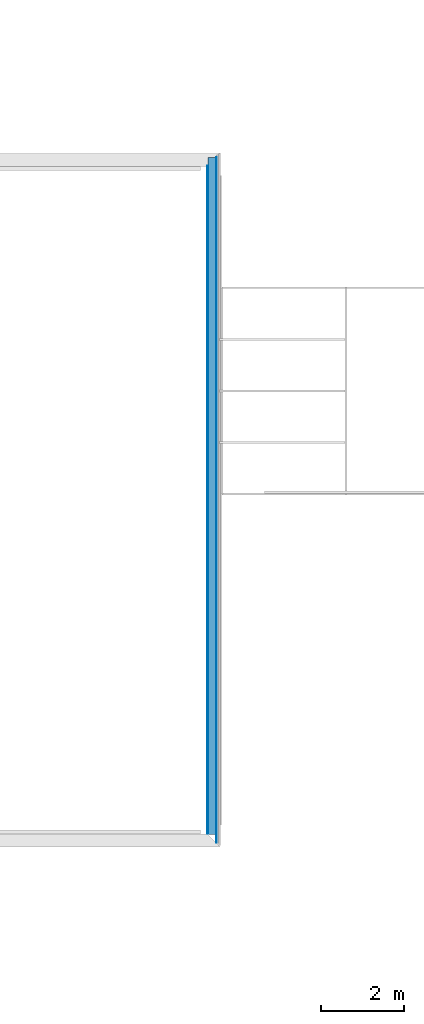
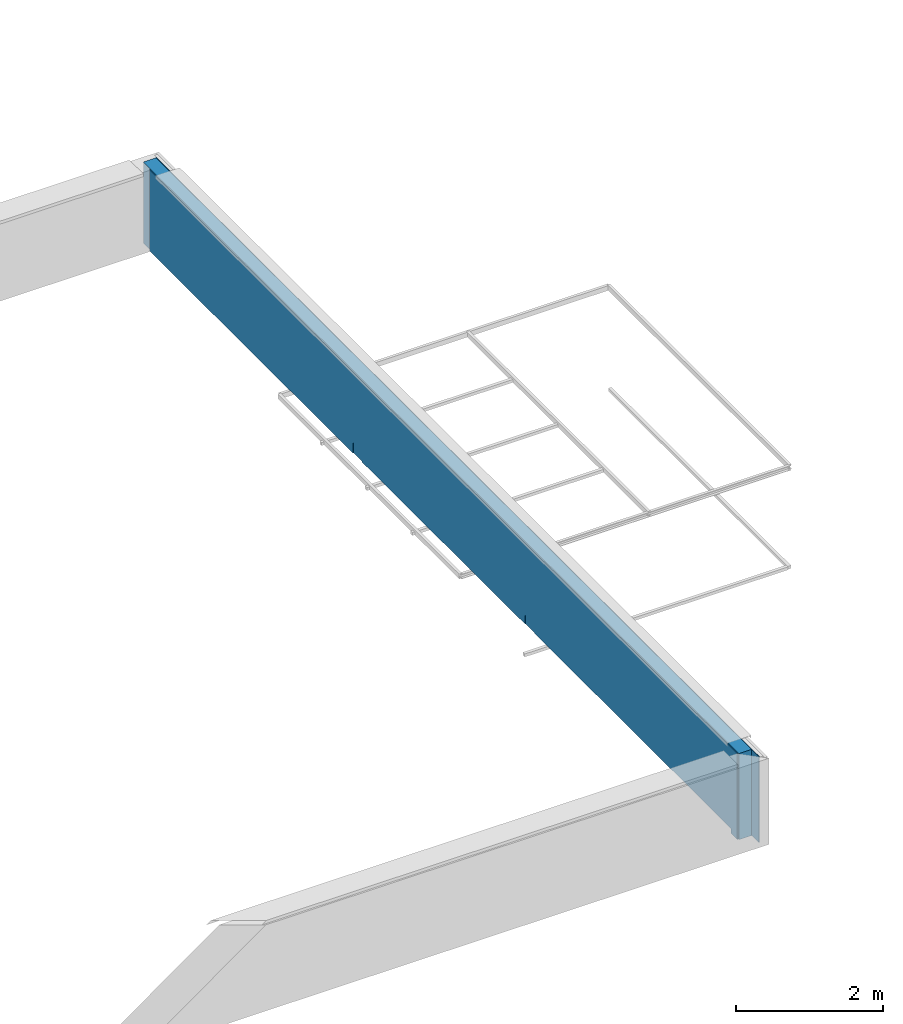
# One storey, part 6 of 8: 3 building element parts, 1 element without a shape of its own.
"""IFC2X3 building model written with IfcOpenShell, lengths in metres."""

from ifc_helpers import new_model, entity, si_unit, converted_unit, derived_unit, money_unit, direction, frame, origin_with_axes, place, context, subcontext, project, spatial, polyline, outline, extrude, boolean, faceted_brep, material, type_object, element, aggregate, save


model = new_model("IFC2X3")

# Units and contexts
model_context = context("Model", 3, precision=1e-05, world=origin_with_axes(), true_north=direction((0.0, 1.0)))
body_context = subcontext(model_context, "Body", "Model", "MODEL_VIEW")
ifc_project = project(units=[si_unit("LENGTHUNIT", "METRE"), si_unit("AREAUNIT", "SQUARE_METRE"), si_unit("VOLUMEUNIT", "CUBIC_METRE"), converted_unit("PLANEANGLEUNIT", "DEGREE", entity("IfcPlaneAngleMeasure", 0.0174532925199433), si_unit("PLANEANGLEUNIT", "RADIAN"), dimensions=[0, 0, 0, 0, 0, 0, 0]), money_unit("EUR"), converted_unit("TIMEUNIT", "Year", entity("IfcTimeMeasure", 31557600.0), si_unit("TIMEUNIT", "SECOND"), dimensions=[0, 0, 1, 0, 0, 0, 0]), si_unit("MASSUNIT", "GRAM", prefix="KILO"), si_unit("THERMODYNAMICTEMPERATUREUNIT", "DEGREE_CELSIUS"), si_unit("LUMINOUSINTENSITYUNIT", "LUMEN"), si_unit("ENERGYUNIT", "JOULE", prefix="MEGA"), derived_unit("THERMALCONDUCTANCEUNIT", [(si_unit("POWERUNIT", "WATT"), 1), (si_unit("LENGTHUNIT", "METRE"), -1), (si_unit("THERMODYNAMICTEMPERATUREUNIT", "KELVIN"), -1)]), derived_unit("SPECIFICHEATCAPACITYUNIT", [(si_unit("ENERGYUNIT", "JOULE"), 1), (si_unit("MASSUNIT", "GRAM", prefix="KILO"), -1), (si_unit("THERMODYNAMICTEMPERATUREUNIT", "KELVIN"), -1)]), derived_unit("MASSDENSITYUNIT", [(si_unit("MASSUNIT", "GRAM", prefix="KILO"), 1), (si_unit("VOLUMEUNIT", "CUBIC_METRE"), -1)])], contexts=[model_context])

# Site, building, storey
site_placement = place(None, origin_with_axes())
site = spatial("IfcSite", under=ifc_project, at=site_placement, Name="Site", CompositionType="ELEMENT")
building_placement = place(site_placement, origin_with_axes())
building = spatial("IfcBuilding", under=site, at=building_placement, Name="Bâtiment", CompositionType="ELEMENT")
storey_placement = place(building_placement, frame((0.0, 0.0, 7.12), z_axis=(0.0, 0.0, 1.0), x_axis=(1.0, 0.0, 0.0)))
storey = spatial("IfcBuildingStorey", under=building, at=storey_placement, Name="Combles", CompositionType="ELEMENT", Elevation=7.12)

# Wall, building element parts
wall_type = type_object("IfcWallType", Name="*MACONNERIE BARDAGE METAL Acrotère 318", PredefinedType="NOTDEFINED")
wall_placement = place(storey_placement, frame((54.20199999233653, -27.06756215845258, -0.334784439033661), z_axis=(0.0, 0.0, 1.0), x_axis=(0.0, 1.0, 0.0)))
wall = element("IfcWall", 1, at=wall_placement, inside=storey, type_object=wall_type, Name="Mur maçonné + ITI + véture métallique")
ifc_material_1 = material(Name="*GENERIQUE - ENDUIT EXT")
building_element_part_1_placement = place(wall_placement, origin_with_axes())
solid_1 = boolean("DIFFERENCE", boolean("DIFFERENCE", boolean("DIFFERENCE", boolean("DIFFERENCE", boolean("DIFFERENCE", boolean("DIFFERENCE", boolean("DIFFERENCE", boolean("DIFFERENCE", extrude(outline(polyline([(-0.3679999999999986, -0.06799999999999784), (16.28800000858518, -0.06799999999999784), (16.28800000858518, -0.04999999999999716), (-0.3679999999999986, -0.04999999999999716), (-0.3679999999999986, -0.06799999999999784)])), origin_with_axes(), (0.0, 0.0, 1.0), 1.434784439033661), faceted_brep([(-0.05000000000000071, -0.06799999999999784, 0.0), (-0.04999999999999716, -0.06799999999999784, 1.434784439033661), (-0.3679999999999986, -0.06799999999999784, 1.434784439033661), (-0.3679999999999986, -0.06799999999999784, 0.0), (-0.05000000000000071, -0.04999999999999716, 1.434784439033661), (-0.05000000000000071, -0.04999999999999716, 0.0), (-0.3679999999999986, -0.04999999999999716, 1.434784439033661), (-0.3679999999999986, -0.04999999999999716, 0.0)], [[[0, 1, 2, 3]], [[4, 1, 0, 5]], [[1, 4, 6, 2]], [[6, 7, 3, 2]], [[5, 0, 3, 7]], [[4, 5, 7, 6]]])), faceted_brep([(15.98800000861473, -0.04999999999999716, 1.434784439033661), (15.98800000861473, -0.06799999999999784, 1.434784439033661), (16.28800000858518, -0.06799999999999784, 1.434784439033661), (16.28800000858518, -0.04999999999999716, 1.434784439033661), (15.98800000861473, -0.06799999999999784, 0.08067000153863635), (15.98800000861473, -0.04999999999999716, 0.08067000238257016), (0.109999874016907, -0.06799999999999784, 0.08067000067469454), (0.109999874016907, -0.06799999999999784, 0.0), (16.28800000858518, -0.06799999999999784, 0.0), (15.92000000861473, -0.06799999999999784, 0.08067000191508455), (16.28800000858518, -0.04999999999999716, 0.0), (0.109999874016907, -0.04999999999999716, 0.0), (0.109999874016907, -0.04999999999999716, 0.08067000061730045), (5.484997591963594, -0.04999999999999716, 0.08067000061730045), (5.484997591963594, -0.04999999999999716, 0.2275174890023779), (5.734997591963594, -0.04999999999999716, 0.2275174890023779), (5.734997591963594, -0.04999999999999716, 0.0806700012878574), (10.18499765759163, -0.04999999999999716, 0.0806700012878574), (10.18499765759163, -0.04999999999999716, 0.2510174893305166), (10.43499765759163, -0.04999999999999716, 0.2510174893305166), (10.43499765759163, -0.04999999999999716, 0.08067000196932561), (15.92000000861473, -0.04999999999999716, 0.08067000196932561), (10.43499765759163, -0.05799999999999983, 0.08067000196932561), (10.18499765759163, -0.05799999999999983, 0.0806700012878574), (5.734997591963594, -0.05799999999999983, 0.0806700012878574), (5.484997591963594, -0.05799999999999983, 0.08067000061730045), (5.484997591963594, -0.05799999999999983, 0.2275174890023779), (5.734997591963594, -0.05799999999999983, 0.2275174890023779), (10.18499765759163, -0.05799999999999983, 0.2510174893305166), (10.43499765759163, -0.05799999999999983, 0.2510174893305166)], [[[0, 1, 2, 3]], [[4, 1, 0, 5]], [[6, 7, 8, 2, 1, 4, 9]], [[2, 8, 10, 3]], [[5, 0, 3, 10, 11, 12, 13, 14, 15, 16, 17, 18, 19, 20, 21]], [[9, 4, 5, 21]], [[7, 6, 12, 11]], [[7, 11, 10, 8]], [[6, 9, 21, 20, 22, 23, 17, 16, 24, 25, 13, 12]], [[14, 13, 25, 26]], [[15, 14, 26, 27]], [[16, 15, 27, 24]], [[18, 17, 23, 28]], [[19, 18, 28, 29]], [[20, 19, 29, 22]], [[22, 29, 28, 23]], [[24, 27, 26, 25]]])), faceted_brep([(-0.06800000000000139, -0.2680000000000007, 0.0), (-0.06800000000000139, -0.2680000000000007, 1.434784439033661), (-0.3679999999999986, -0.2680000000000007, 1.434784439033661), (-0.3679999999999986, -0.2680000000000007, 0.0), (-0.06800000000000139, -0.06799999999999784, 1.434784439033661), (-0.06800000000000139, -0.06799999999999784, 0.0), (-0.3679999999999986, -0.06799999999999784, 1.434784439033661), (-0.3679999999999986, -0.06799999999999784, 0.0)], [[[0, 1, 2, 3]], [[4, 1, 0, 5]], [[1, 4, 6, 2]], [[2, 6, 7, 3]], [[5, 0, 3, 7]], [[4, 5, 7, 6]]])), faceted_brep([(16.18800000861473, -0.06799999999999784, 1.434784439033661), (16.18800000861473, -0.2680000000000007, 1.434784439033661), (16.28800000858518, -0.2680000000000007, 1.434784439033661), (16.28800000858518, -0.06799999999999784, 1.434784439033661), (16.18800000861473, -0.2680000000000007, 0.08067000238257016), (16.18800000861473, -0.06799999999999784, 0.08067000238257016), (0.109999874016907, -0.2680000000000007, 0.08067000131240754), (0.109999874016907, -0.2680000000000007, 0.0), (16.28800000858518, -0.2680000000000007, 0.0), (15.92000000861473, -0.2680000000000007, 0.08067000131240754), (16.28800000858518, -0.06799999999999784, 0.0), (0.109999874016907, -0.06799999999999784, 0.0), (0.109999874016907, -0.06799999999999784, 0.08067000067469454), (15.92000000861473, -0.06799999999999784, 0.08067000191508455), (15.98800000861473, -0.06799999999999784, 0.08067000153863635)], [[[0, 1, 2, 3]], [[4, 1, 0, 5]], [[6, 7, 8, 2, 1, 4, 9]], [[3, 2, 8, 10]], [[5, 0, 3, 10, 11, 12, 13, 14]], [[9, 4, 5, 14, 13]], [[7, 6, 12, 11]], [[7, 11, 10, 8]], [[6, 9, 13, 12]]])), faceted_brep([(16.28800000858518, -0.2779999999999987, 1.434784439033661), (16.28800000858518, -0.2680000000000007, 1.434784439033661), (16.19800000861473, -0.2680000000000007, 1.434784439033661), (16.19800000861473, -0.2779999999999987, 1.434784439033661), (16.28800000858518, -0.2680000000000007, 0.0), (16.28800000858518, -0.2779999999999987, 0.0), (0.109999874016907, -0.2680000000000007, 0.0806700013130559), (15.92000000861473, -0.2680000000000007, 0.0806700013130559), (16.19800000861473, -0.2680000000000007, 0.08067000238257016), (0.109999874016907, -0.2680000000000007, 0.0), (16.19800000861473, -0.2779999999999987, 0.08067000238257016), (15.92000000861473, -0.2779999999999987, 0.0806700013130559), (0.109999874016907, -0.2779999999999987, 0.0806700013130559), (0.109999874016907, -0.2779999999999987, 0.0)], [[[0, 1, 2, 3]], [[4, 1, 0, 5]], [[6, 7, 8, 2, 1, 4, 9]], [[2, 8, 10, 3]], [[10, 11, 12, 13, 5, 0, 3]], [[4, 5, 13, 9]], [[7, 6, 12, 11]], [[8, 7, 11, 10]], [[6, 9, 13, 12]]])), faceted_brep([(-0.3679999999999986, -0.2779999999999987, 0.0), (-0.2680000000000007, -0.2779999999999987, 0.0), (-0.2680000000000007, -0.2779999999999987, 1.434784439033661), (-0.3679999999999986, -0.2779999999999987, 1.434784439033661), (-0.3679999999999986, -0.2680000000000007, 0.0), (-0.2680000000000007, -0.2680000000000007, 0.0), (-0.2680000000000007, -0.2680000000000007, 1.434784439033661), (-0.3679999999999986, -0.2680000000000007, 1.434784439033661)], [[[0, 1, 2, 3]], [[4, 5, 1, 0]], [[5, 6, 2, 1]], [[3, 2, 6, 7]], [[3, 7, 4, 0]], [[7, 6, 5, 4]]])), faceted_brep([(-0.3679999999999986, -0.328000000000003, 0.0), (-0.2779999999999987, -0.328000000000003, 0.0), (-0.2779999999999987, -0.328000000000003, 1.434784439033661), (-0.3679999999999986, -0.328000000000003, 1.434784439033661), (-0.3679999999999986, -0.2779999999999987, 0.0), (-0.2779999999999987, -0.2779999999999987, 0.0), (-0.2779999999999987, -0.2779999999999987, 1.434784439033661), (-0.3679999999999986, -0.2779999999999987, 1.434784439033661)], [[[0, 1, 2, 3]], [[4, 5, 1, 0]], [[5, 6, 2, 1]], [[3, 2, 6, 7]], [[0, 3, 7, 4]], [[7, 6, 5, 4]]])), faceted_brep([(16.28800000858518, -0.2779999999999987, 1.434784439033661), (16.24800000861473, -0.2779999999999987, 1.434784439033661), (16.24800000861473, -0.328000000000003, 1.434784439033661), (16.28800000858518, -0.328000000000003, 1.434784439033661), (15.92000000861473, -0.2779999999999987, 0.08067000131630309), (16.24800000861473, -0.2779999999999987, 0.08067000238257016), (16.28800000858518, -0.2779999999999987, 0.0), (0.109999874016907, -0.2779999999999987, 0.0), (0.109999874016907, -0.2779999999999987, 0.08067000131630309), (16.24800000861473, -0.328000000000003, 0.08067000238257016), (15.92000000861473, -0.328000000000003, 0.08067000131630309), (0.109999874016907, -0.328000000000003, 0.08067000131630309), (0.109999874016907, -0.328000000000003, 0.0), (16.28800000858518, -0.328000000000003, 0.0)], [[[0, 1, 2, 3]], [[4, 5, 1, 0, 6, 7, 8]], [[5, 9, 2, 1]], [[10, 11, 12, 13, 3, 2, 9]], [[6, 0, 3, 13]], [[4, 10, 9, 5]], [[13, 12, 7, 6]], [[7, 12, 11, 8]], [[8, 11, 10, 4]]]))
building_element_part_1 = element("IfcBuildingElementPart", 2, at=building_element_part_1_placement, material=ifc_material_1, Name="*GENERIQUE - ENDUIT EXT", context=body_context, shape_type="CSG", body=[
    boolean("DIFFERENCE", boolean("DIFFERENCE", solid_1, faceted_brep([(-0.3279999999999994, -0.3680000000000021, 0.0), (-0.3279999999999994, -0.3680000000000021, 1.434784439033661), (-0.3679999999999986, -0.3680000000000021, 1.434784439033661), (-0.3679999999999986, -0.3680000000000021, 0.0), (-0.3279999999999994, -0.328000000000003, 1.434784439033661), (-0.3279999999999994, -0.328000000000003, 0.0), (-0.3679999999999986, -0.328000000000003, 1.434784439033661), (-0.3679999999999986, -0.328000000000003, 0.0)], [[[0, 1, 2, 3]], [[4, 1, 0, 5]], [[1, 4, 6, 2]], [[2, 6, 7, 3]], [[5, 0, 3, 7]], [[4, 5, 7, 6]]])), faceted_brep([(16.28800000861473, -0.328000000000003, 0.08067000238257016), (16.28800000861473, -0.3680000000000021, 0.08067000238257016), (16.28800000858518, -0.3680000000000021, 0.0), (16.28800000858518, -0.328000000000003, 0.0), (15.92000000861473, -0.3680000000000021, 0.0806700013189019), (15.92000000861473, -0.328000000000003, 0.0806700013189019), (0.109999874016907, -0.3680000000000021, 0.0806700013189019), (0.109999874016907, -0.3680000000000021, 0.0), (0.109999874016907, -0.328000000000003, 0.0), (0.109999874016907, -0.328000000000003, 0.0806700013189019)], [[[0, 1, 2, 3]], [[4, 1, 0, 5]], [[6, 7, 2, 1, 4]], [[7, 8, 3, 2]], [[5, 0, 3, 8, 9]], [[6, 4, 5, 9]], [[7, 6, 9, 8]]])),
])
ifc_material_2 = material(Name="*GENERIQUE - MAÇONNERIE")
building_element_part_2_placement = place(wall_placement, origin_with_axes())
solid_2 = boolean("DIFFERENCE", boolean("DIFFERENCE", boolean("DIFFERENCE", boolean("DIFFERENCE", boolean("DIFFERENCE", boolean("DIFFERENCE", boolean("DIFFERENCE", boolean("DIFFERENCE", extrude(outline(polyline([(-0.3679999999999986, -0.2680000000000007), (16.28800000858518, -0.2680000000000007), (16.28800000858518, -0.06799999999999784), (-0.3679999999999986, -0.06799999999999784), (-0.3679999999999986, -0.2680000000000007)])), origin_with_axes(), (0.0, 0.0, 1.0), 1.434784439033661), faceted_brep([(-0.05000000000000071, -0.06799999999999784, 0.0), (-0.04999999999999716, -0.06799999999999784, 1.434784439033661), (-0.3679999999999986, -0.06799999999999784, 1.434784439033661), (-0.3679999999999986, -0.06799999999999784, 0.0), (-0.05000000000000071, -0.04999999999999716, 1.434784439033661), (-0.05000000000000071, -0.04999999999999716, 0.0), (-0.3679999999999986, -0.04999999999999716, 1.434784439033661), (-0.3679999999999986, -0.04999999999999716, 0.0)], [[[0, 1, 2, 3]], [[4, 1, 0, 5]], [[1, 4, 6, 2]], [[6, 7, 3, 2]], [[5, 0, 3, 7]], [[4, 5, 7, 6]]])), faceted_brep([(15.98800000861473, -0.04999999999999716, 1.434784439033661), (15.98800000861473, -0.06799999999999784, 1.434784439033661), (16.28800000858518, -0.06799999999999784, 1.434784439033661), (16.28800000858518, -0.04999999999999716, 1.434784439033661), (15.98800000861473, -0.06799999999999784, 0.08067000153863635), (15.98800000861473, -0.04999999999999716, 0.08067000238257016), (0.109999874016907, -0.06799999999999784, 0.08067000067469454), (0.109999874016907, -0.06799999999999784, 0.0), (16.28800000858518, -0.06799999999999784, 0.0), (15.92000000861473, -0.06799999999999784, 0.08067000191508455), (16.28800000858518, -0.04999999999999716, 0.0), (0.109999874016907, -0.04999999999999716, 0.0), (0.109999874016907, -0.04999999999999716, 0.08067000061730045), (5.484997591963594, -0.04999999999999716, 0.08067000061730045), (5.484997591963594, -0.04999999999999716, 0.2275174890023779), (5.734997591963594, -0.04999999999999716, 0.2275174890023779), (5.734997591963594, -0.04999999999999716, 0.0806700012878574), (10.18499765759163, -0.04999999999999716, 0.0806700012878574), (10.18499765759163, -0.04999999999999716, 0.2510174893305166), (10.43499765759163, -0.04999999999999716, 0.2510174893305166), (10.43499765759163, -0.04999999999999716, 0.08067000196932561), (15.92000000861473, -0.04999999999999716, 0.08067000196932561), (10.43499765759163, -0.05799999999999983, 0.08067000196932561), (10.18499765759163, -0.05799999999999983, 0.0806700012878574), (5.734997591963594, -0.05799999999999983, 0.0806700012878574), (5.484997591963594, -0.05799999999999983, 0.08067000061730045), (5.484997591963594, -0.05799999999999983, 0.2275174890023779), (5.734997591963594, -0.05799999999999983, 0.2275174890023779), (10.18499765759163, -0.05799999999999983, 0.2510174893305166), (10.43499765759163, -0.05799999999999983, 0.2510174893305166)], [[[0, 1, 2, 3]], [[4, 1, 0, 5]], [[6, 7, 8, 2, 1, 4, 9]], [[2, 8, 10, 3]], [[5, 0, 3, 10, 11, 12, 13, 14, 15, 16, 17, 18, 19, 20, 21]], [[9, 4, 5, 21]], [[7, 6, 12, 11]], [[7, 11, 10, 8]], [[6, 9, 21, 20, 22, 23, 17, 16, 24, 25, 13, 12]], [[14, 13, 25, 26]], [[15, 14, 26, 27]], [[16, 15, 27, 24]], [[18, 17, 23, 28]], [[19, 18, 28, 29]], [[20, 19, 29, 22]], [[22, 29, 28, 23]], [[24, 27, 26, 25]]])), faceted_brep([(-0.06800000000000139, -0.2680000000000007, 0.0), (-0.06800000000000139, -0.2680000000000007, 1.434784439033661), (-0.3679999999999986, -0.2680000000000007, 1.434784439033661), (-0.3679999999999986, -0.2680000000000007, 0.0), (-0.06800000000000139, -0.06799999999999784, 1.434784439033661), (-0.06800000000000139, -0.06799999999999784, 0.0), (-0.3679999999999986, -0.06799999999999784, 1.434784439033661), (-0.3679999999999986, -0.06799999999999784, 0.0)], [[[0, 1, 2, 3]], [[4, 1, 0, 5]], [[1, 4, 6, 2]], [[2, 6, 7, 3]], [[5, 0, 3, 7]], [[4, 5, 7, 6]]])), faceted_brep([(16.18800000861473, -0.06799999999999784, 1.434784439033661), (16.18800000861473, -0.2680000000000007, 1.434784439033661), (16.28800000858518, -0.2680000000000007, 1.434784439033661), (16.28800000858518, -0.06799999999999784, 1.434784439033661), (16.18800000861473, -0.2680000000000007, 0.08067000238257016), (16.18800000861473, -0.06799999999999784, 0.08067000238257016), (0.109999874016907, -0.2680000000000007, 0.08067000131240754), (0.109999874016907, -0.2680000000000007, 0.0), (16.28800000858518, -0.2680000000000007, 0.0), (15.92000000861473, -0.2680000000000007, 0.08067000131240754), (16.28800000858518, -0.06799999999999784, 0.0), (0.109999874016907, -0.06799999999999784, 0.0), (0.109999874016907, -0.06799999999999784, 0.08067000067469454), (15.92000000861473, -0.06799999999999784, 0.08067000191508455), (15.98800000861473, -0.06799999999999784, 0.08067000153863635)], [[[0, 1, 2, 3]], [[4, 1, 0, 5]], [[6, 7, 8, 2, 1, 4, 9]], [[3, 2, 8, 10]], [[5, 0, 3, 10, 11, 12, 13, 14]], [[9, 4, 5, 14, 13]], [[7, 6, 12, 11]], [[7, 11, 10, 8]], [[6, 9, 13, 12]]])), faceted_brep([(16.28800000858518, -0.2779999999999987, 1.434784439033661), (16.28800000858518, -0.2680000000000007, 1.434784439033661), (16.19800000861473, -0.2680000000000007, 1.434784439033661), (16.19800000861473, -0.2779999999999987, 1.434784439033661), (16.28800000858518, -0.2680000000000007, 0.0), (16.28800000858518, -0.2779999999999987, 0.0), (0.109999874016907, -0.2680000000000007, 0.0806700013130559), (15.92000000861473, -0.2680000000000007, 0.0806700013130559), (16.19800000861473, -0.2680000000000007, 0.08067000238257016), (0.109999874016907, -0.2680000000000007, 0.0), (16.19800000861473, -0.2779999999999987, 0.08067000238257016), (15.92000000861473, -0.2779999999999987, 0.0806700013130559), (0.109999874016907, -0.2779999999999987, 0.0806700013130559), (0.109999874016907, -0.2779999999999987, 0.0)], [[[0, 1, 2, 3]], [[4, 1, 0, 5]], [[6, 7, 8, 2, 1, 4, 9]], [[2, 8, 10, 3]], [[10, 11, 12, 13, 5, 0, 3]], [[4, 5, 13, 9]], [[7, 6, 12, 11]], [[8, 7, 11, 10]], [[6, 9, 13, 12]]])), faceted_brep([(-0.3679999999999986, -0.2779999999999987, 0.0), (-0.2680000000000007, -0.2779999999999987, 0.0), (-0.2680000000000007, -0.2779999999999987, 1.434784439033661), (-0.3679999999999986, -0.2779999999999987, 1.434784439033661), (-0.3679999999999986, -0.2680000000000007, 0.0), (-0.2680000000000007, -0.2680000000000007, 0.0), (-0.2680000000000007, -0.2680000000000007, 1.434784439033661), (-0.3679999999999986, -0.2680000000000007, 1.434784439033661)], [[[0, 1, 2, 3]], [[4, 5, 1, 0]], [[5, 6, 2, 1]], [[3, 2, 6, 7]], [[3, 7, 4, 0]], [[7, 6, 5, 4]]])), faceted_brep([(-0.3679999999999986, -0.328000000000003, 0.0), (-0.2779999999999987, -0.328000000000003, 0.0), (-0.2779999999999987, -0.328000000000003, 1.434784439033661), (-0.3679999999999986, -0.328000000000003, 1.434784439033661), (-0.3679999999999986, -0.2779999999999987, 0.0), (-0.2779999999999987, -0.2779999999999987, 0.0), (-0.2779999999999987, -0.2779999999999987, 1.434784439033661), (-0.3679999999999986, -0.2779999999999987, 1.434784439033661)], [[[0, 1, 2, 3]], [[4, 5, 1, 0]], [[5, 6, 2, 1]], [[3, 2, 6, 7]], [[0, 3, 7, 4]], [[7, 6, 5, 4]]])), faceted_brep([(16.28800000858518, -0.2779999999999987, 1.434784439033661), (16.24800000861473, -0.2779999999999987, 1.434784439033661), (16.24800000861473, -0.328000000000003, 1.434784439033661), (16.28800000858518, -0.328000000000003, 1.434784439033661), (15.92000000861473, -0.2779999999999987, 0.08067000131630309), (16.24800000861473, -0.2779999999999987, 0.08067000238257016), (16.28800000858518, -0.2779999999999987, 0.0), (0.109999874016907, -0.2779999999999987, 0.0), (0.109999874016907, -0.2779999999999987, 0.08067000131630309), (16.24800000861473, -0.328000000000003, 0.08067000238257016), (15.92000000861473, -0.328000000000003, 0.08067000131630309), (0.109999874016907, -0.328000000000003, 0.08067000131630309), (0.109999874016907, -0.328000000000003, 0.0), (16.28800000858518, -0.328000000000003, 0.0)], [[[0, 1, 2, 3]], [[4, 5, 1, 0, 6, 7, 8]], [[5, 9, 2, 1]], [[10, 11, 12, 13, 3, 2, 9]], [[6, 0, 3, 13]], [[4, 10, 9, 5]], [[13, 12, 7, 6]], [[7, 12, 11, 8]], [[8, 11, 10, 4]]]))
building_element_part_2 = element("IfcBuildingElementPart", 3, at=building_element_part_2_placement, material=ifc_material_2, Name="*GENERIQUE - MAÇONNERIE", context=body_context, shape_type="CSG", body=[
    boolean("DIFFERENCE", boolean("DIFFERENCE", solid_2, faceted_brep([(-0.3279999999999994, -0.3680000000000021, 0.0), (-0.3279999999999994, -0.3680000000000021, 1.434784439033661), (-0.3679999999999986, -0.3680000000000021, 1.434784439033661), (-0.3679999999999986, -0.3680000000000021, 0.0), (-0.3279999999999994, -0.328000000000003, 1.434784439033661), (-0.3279999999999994, -0.328000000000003, 0.0), (-0.3679999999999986, -0.328000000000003, 1.434784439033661), (-0.3679999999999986, -0.328000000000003, 0.0)], [[[0, 1, 2, 3]], [[4, 1, 0, 5]], [[1, 4, 6, 2]], [[2, 6, 7, 3]], [[5, 0, 3, 7]], [[4, 5, 7, 6]]])), faceted_brep([(16.28800000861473, -0.328000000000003, 0.08067000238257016), (16.28800000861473, -0.3680000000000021, 0.08067000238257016), (16.28800000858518, -0.3680000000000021, 0.0), (16.28800000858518, -0.328000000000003, 0.0), (15.92000000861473, -0.3680000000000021, 0.0806700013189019), (15.92000000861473, -0.328000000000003, 0.0806700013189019), (0.109999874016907, -0.3680000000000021, 0.0806700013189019), (0.109999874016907, -0.3680000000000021, 0.0), (0.109999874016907, -0.328000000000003, 0.0), (0.109999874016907, -0.328000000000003, 0.0806700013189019)], [[[0, 1, 2, 3]], [[4, 1, 0, 5]], [[6, 7, 2, 1, 4]], [[7, 8, 3, 2]], [[5, 0, 3, 8, 9]], [[6, 4, 5, 9]], [[7, 6, 9, 8]]])),
])
ifc_material_3 = material(Name="Finition int - Enduit plâtre")
building_element_part_3_placement = place(wall_placement, origin_with_axes())
solid_3 = boolean("DIFFERENCE", boolean("DIFFERENCE", boolean("DIFFERENCE", boolean("DIFFERENCE", boolean("DIFFERENCE", boolean("DIFFERENCE", boolean("DIFFERENCE", boolean("DIFFERENCE", extrude(outline(polyline([(-0.3679999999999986, -0.2779999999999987), (16.28800000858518, -0.2779999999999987), (16.28800000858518, -0.2680000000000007), (-0.3679999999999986, -0.2680000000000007), (-0.3679999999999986, -0.2779999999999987)])), origin_with_axes(), (0.0, 0.0, 1.0), 1.434784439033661), faceted_brep([(-0.05000000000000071, -0.06799999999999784, 0.0), (-0.04999999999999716, -0.06799999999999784, 1.434784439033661), (-0.3679999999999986, -0.06799999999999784, 1.434784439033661), (-0.3679999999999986, -0.06799999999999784, 0.0), (-0.05000000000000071, -0.04999999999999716, 1.434784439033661), (-0.05000000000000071, -0.04999999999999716, 0.0), (-0.3679999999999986, -0.04999999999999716, 1.434784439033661), (-0.3679999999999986, -0.04999999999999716, 0.0)], [[[0, 1, 2, 3]], [[4, 1, 0, 5]], [[1, 4, 6, 2]], [[6, 7, 3, 2]], [[5, 0, 3, 7]], [[4, 5, 7, 6]]])), faceted_brep([(15.98800000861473, -0.04999999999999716, 1.434784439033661), (15.98800000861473, -0.06799999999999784, 1.434784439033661), (16.28800000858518, -0.06799999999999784, 1.434784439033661), (16.28800000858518, -0.04999999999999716, 1.434784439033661), (15.98800000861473, -0.06799999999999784, 0.08067000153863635), (15.98800000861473, -0.04999999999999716, 0.08067000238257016), (0.109999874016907, -0.06799999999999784, 0.08067000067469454), (0.109999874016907, -0.06799999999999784, 0.0), (16.28800000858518, -0.06799999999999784, 0.0), (15.92000000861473, -0.06799999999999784, 0.08067000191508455), (16.28800000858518, -0.04999999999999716, 0.0), (0.109999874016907, -0.04999999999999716, 0.0), (0.109999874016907, -0.04999999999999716, 0.08067000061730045), (5.484997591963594, -0.04999999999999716, 0.08067000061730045), (5.484997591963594, -0.04999999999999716, 0.2275174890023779), (5.734997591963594, -0.04999999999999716, 0.2275174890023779), (5.734997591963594, -0.04999999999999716, 0.0806700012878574), (10.18499765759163, -0.04999999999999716, 0.0806700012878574), (10.18499765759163, -0.04999999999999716, 0.2510174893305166), (10.43499765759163, -0.04999999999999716, 0.2510174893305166), (10.43499765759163, -0.04999999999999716, 0.08067000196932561), (15.92000000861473, -0.04999999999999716, 0.08067000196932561), (10.43499765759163, -0.05799999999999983, 0.08067000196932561), (10.18499765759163, -0.05799999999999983, 0.0806700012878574), (5.734997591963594, -0.05799999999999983, 0.0806700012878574), (5.484997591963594, -0.05799999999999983, 0.08067000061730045), (5.484997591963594, -0.05799999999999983, 0.2275174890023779), (5.734997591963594, -0.05799999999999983, 0.2275174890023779), (10.18499765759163, -0.05799999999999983, 0.2510174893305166), (10.43499765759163, -0.05799999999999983, 0.2510174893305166)], [[[0, 1, 2, 3]], [[4, 1, 0, 5]], [[6, 7, 8, 2, 1, 4, 9]], [[2, 8, 10, 3]], [[5, 0, 3, 10, 11, 12, 13, 14, 15, 16, 17, 18, 19, 20, 21]], [[9, 4, 5, 21]], [[7, 6, 12, 11]], [[7, 11, 10, 8]], [[6, 9, 21, 20, 22, 23, 17, 16, 24, 25, 13, 12]], [[14, 13, 25, 26]], [[15, 14, 26, 27]], [[16, 15, 27, 24]], [[18, 17, 23, 28]], [[19, 18, 28, 29]], [[20, 19, 29, 22]], [[22, 29, 28, 23]], [[24, 27, 26, 25]]])), faceted_brep([(-0.06800000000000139, -0.2680000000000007, 0.0), (-0.06800000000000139, -0.2680000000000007, 1.434784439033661), (-0.3679999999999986, -0.2680000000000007, 1.434784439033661), (-0.3679999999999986, -0.2680000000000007, 0.0), (-0.06800000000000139, -0.06799999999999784, 1.434784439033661), (-0.06800000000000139, -0.06799999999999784, 0.0), (-0.3679999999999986, -0.06799999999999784, 1.434784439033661), (-0.3679999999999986, -0.06799999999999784, 0.0)], [[[0, 1, 2, 3]], [[4, 1, 0, 5]], [[1, 4, 6, 2]], [[2, 6, 7, 3]], [[5, 0, 3, 7]], [[4, 5, 7, 6]]])), faceted_brep([(16.18800000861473, -0.06799999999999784, 1.434784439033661), (16.18800000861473, -0.2680000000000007, 1.434784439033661), (16.28800000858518, -0.2680000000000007, 1.434784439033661), (16.28800000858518, -0.06799999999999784, 1.434784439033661), (16.18800000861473, -0.2680000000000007, 0.08067000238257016), (16.18800000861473, -0.06799999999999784, 0.08067000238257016), (0.109999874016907, -0.2680000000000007, 0.08067000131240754), (0.109999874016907, -0.2680000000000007, 0.0), (16.28800000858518, -0.2680000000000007, 0.0), (15.92000000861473, -0.2680000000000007, 0.08067000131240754), (16.28800000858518, -0.06799999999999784, 0.0), (0.109999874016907, -0.06799999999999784, 0.0), (0.109999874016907, -0.06799999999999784, 0.08067000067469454), (15.92000000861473, -0.06799999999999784, 0.08067000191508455), (15.98800000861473, -0.06799999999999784, 0.08067000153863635)], [[[0, 1, 2, 3]], [[4, 1, 0, 5]], [[6, 7, 8, 2, 1, 4, 9]], [[3, 2, 8, 10]], [[5, 0, 3, 10, 11, 12, 13, 14]], [[9, 4, 5, 14, 13]], [[7, 6, 12, 11]], [[7, 11, 10, 8]], [[6, 9, 13, 12]]])), faceted_brep([(16.28800000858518, -0.2779999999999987, 1.434784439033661), (16.28800000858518, -0.2680000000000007, 1.434784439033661), (16.19800000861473, -0.2680000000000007, 1.434784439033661), (16.19800000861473, -0.2779999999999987, 1.434784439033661), (16.28800000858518, -0.2680000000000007, 0.0), (16.28800000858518, -0.2779999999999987, 0.0), (0.109999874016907, -0.2680000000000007, 0.0806700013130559), (15.92000000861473, -0.2680000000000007, 0.0806700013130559), (16.19800000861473, -0.2680000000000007, 0.08067000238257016), (0.109999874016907, -0.2680000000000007, 0.0), (16.19800000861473, -0.2779999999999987, 0.08067000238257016), (15.92000000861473, -0.2779999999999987, 0.0806700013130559), (0.109999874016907, -0.2779999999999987, 0.0806700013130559), (0.109999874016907, -0.2779999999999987, 0.0)], [[[0, 1, 2, 3]], [[4, 1, 0, 5]], [[6, 7, 8, 2, 1, 4, 9]], [[2, 8, 10, 3]], [[10, 11, 12, 13, 5, 0, 3]], [[4, 5, 13, 9]], [[7, 6, 12, 11]], [[8, 7, 11, 10]], [[6, 9, 13, 12]]])), faceted_brep([(-0.3679999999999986, -0.2779999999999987, 0.0), (-0.2680000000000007, -0.2779999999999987, 0.0), (-0.2680000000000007, -0.2779999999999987, 1.434784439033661), (-0.3679999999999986, -0.2779999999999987, 1.434784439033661), (-0.3679999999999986, -0.2680000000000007, 0.0), (-0.2680000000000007, -0.2680000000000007, 0.0), (-0.2680000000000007, -0.2680000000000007, 1.434784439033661), (-0.3679999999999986, -0.2680000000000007, 1.434784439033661)], [[[0, 1, 2, 3]], [[4, 5, 1, 0]], [[5, 6, 2, 1]], [[3, 2, 6, 7]], [[3, 7, 4, 0]], [[7, 6, 5, 4]]])), faceted_brep([(-0.3679999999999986, -0.328000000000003, 0.0), (-0.2779999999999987, -0.328000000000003, 0.0), (-0.2779999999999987, -0.328000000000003, 1.434784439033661), (-0.3679999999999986, -0.328000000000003, 1.434784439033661), (-0.3679999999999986, -0.2779999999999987, 0.0), (-0.2779999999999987, -0.2779999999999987, 0.0), (-0.2779999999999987, -0.2779999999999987, 1.434784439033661), (-0.3679999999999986, -0.2779999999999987, 1.434784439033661)], [[[0, 1, 2, 3]], [[4, 5, 1, 0]], [[5, 6, 2, 1]], [[3, 2, 6, 7]], [[0, 3, 7, 4]], [[7, 6, 5, 4]]])), faceted_brep([(16.28800000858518, -0.2779999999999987, 1.434784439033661), (16.24800000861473, -0.2779999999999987, 1.434784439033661), (16.24800000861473, -0.328000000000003, 1.434784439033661), (16.28800000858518, -0.328000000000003, 1.434784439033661), (15.92000000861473, -0.2779999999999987, 0.08067000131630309), (16.24800000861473, -0.2779999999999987, 0.08067000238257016), (16.28800000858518, -0.2779999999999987, 0.0), (0.109999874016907, -0.2779999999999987, 0.0), (0.109999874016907, -0.2779999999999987, 0.08067000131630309), (16.24800000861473, -0.328000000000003, 0.08067000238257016), (15.92000000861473, -0.328000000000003, 0.08067000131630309), (0.109999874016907, -0.328000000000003, 0.08067000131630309), (0.109999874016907, -0.328000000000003, 0.0), (16.28800000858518, -0.328000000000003, 0.0)], [[[0, 1, 2, 3]], [[4, 5, 1, 0, 6, 7, 8]], [[5, 9, 2, 1]], [[10, 11, 12, 13, 3, 2, 9]], [[6, 0, 3, 13]], [[4, 10, 9, 5]], [[13, 12, 7, 6]], [[7, 12, 11, 8]], [[8, 11, 10, 4]]]))
building_element_part_3 = element("IfcBuildingElementPart", 4, at=building_element_part_3_placement, material=ifc_material_3, Name="Finition int - Enduit plâtre", context=body_context, shape_type="CSG", body=[
    boolean("DIFFERENCE", boolean("DIFFERENCE", solid_3, faceted_brep([(-0.3279999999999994, -0.3680000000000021, 0.0), (-0.3279999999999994, -0.3680000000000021, 1.434784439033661), (-0.3679999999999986, -0.3680000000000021, 1.434784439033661), (-0.3679999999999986, -0.3680000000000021, 0.0), (-0.3279999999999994, -0.328000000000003, 1.434784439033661), (-0.3279999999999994, -0.328000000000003, 0.0), (-0.3679999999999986, -0.328000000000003, 1.434784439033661), (-0.3679999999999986, -0.328000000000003, 0.0)], [[[0, 1, 2, 3]], [[4, 1, 0, 5]], [[1, 4, 6, 2]], [[2, 6, 7, 3]], [[5, 0, 3, 7]], [[4, 5, 7, 6]]])), faceted_brep([(16.28800000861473, -0.328000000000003, 0.08067000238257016), (16.28800000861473, -0.3680000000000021, 0.08067000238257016), (16.28800000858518, -0.3680000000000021, 0.0), (16.28800000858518, -0.328000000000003, 0.0), (15.92000000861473, -0.3680000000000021, 0.0806700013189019), (15.92000000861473, -0.328000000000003, 0.0806700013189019), (0.109999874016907, -0.3680000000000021, 0.0806700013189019), (0.109999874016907, -0.3680000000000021, 0.0), (0.109999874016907, -0.328000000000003, 0.0), (0.109999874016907, -0.328000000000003, 0.0806700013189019)], [[[0, 1, 2, 3]], [[4, 1, 0, 5]], [[6, 7, 2, 1, 4]], [[7, 8, 3, 2]], [[5, 0, 3, 8, 9]], [[6, 4, 5, 9]], [[7, 6, 9, 8]]])),
])
aggregate(wall, [building_element_part_1, building_element_part_2, building_element_part_3])

save(model, "model.ifc")
